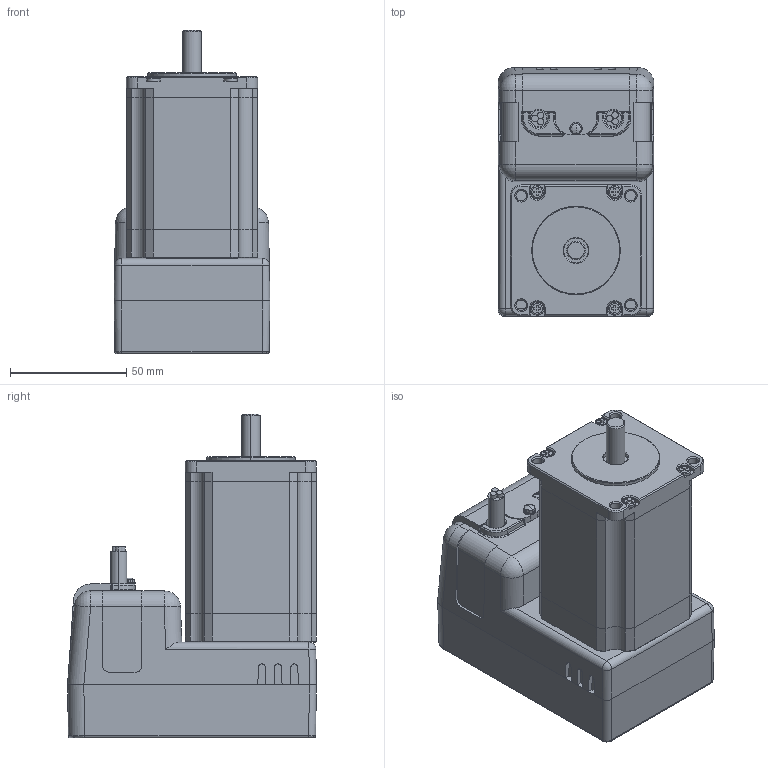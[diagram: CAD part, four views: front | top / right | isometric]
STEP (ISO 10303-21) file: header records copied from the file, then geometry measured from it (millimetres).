
FILE_DESCRIPTION (( 'STEP AP214' ), '1' );
FILE_NAME ('CM2-56B20C.STEP', '2015-03-30T13:37:40', ( '' ), ( '' ), 'SwSTEP 2.0', 'SolidWorks 2015', '' );
FILE_SCHEMA (( 'AUTOMOTIVE_DESIGN' ));
Length unit declared in the file: millimetre
Products named in the file (1): CM2-56B20C
Bounding box: 67 x 107 x 139.2 mm (x, y, z)
Volume: 589147.3 mm3; surface area: 88088.5 mm2
Topology: 19 solids, 19 shells, 534 faces, 1310 edges, 818 vertices
Faces by surface type: plane 236, cylinder 214, torus 35, cone 26, sphere 15, bspline 8
Entity records: 16560 total; most frequent: CARTESIAN_POINT 3086, DIRECTION 2721, ORIENTED_EDGE 2608, EDGE_CURVE 1304, AXIS2_PLACEMENT_3D 975, VERTEX_POINT 818, LINE 771, VECTOR 771
